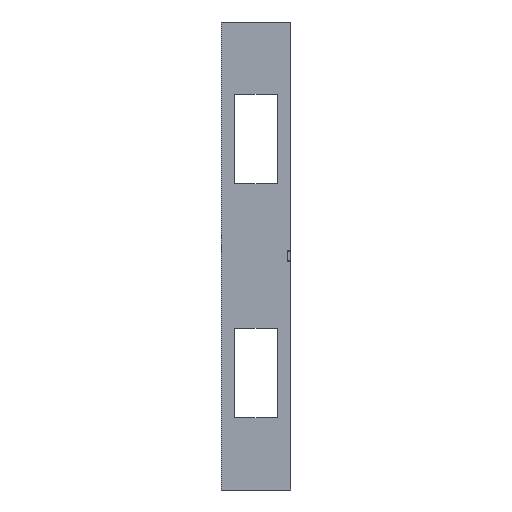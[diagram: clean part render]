
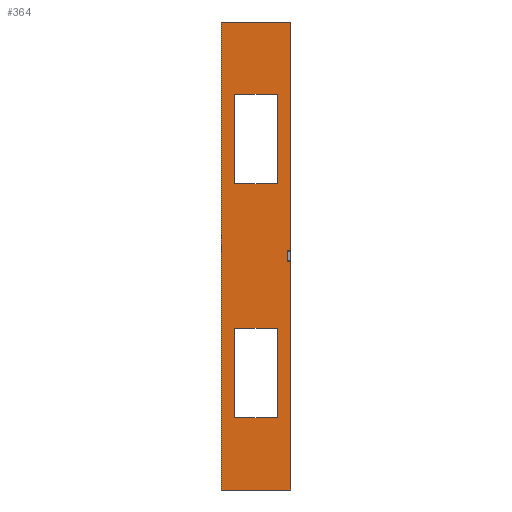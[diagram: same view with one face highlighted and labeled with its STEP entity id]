
A CAD part, front view. The second image highlights one B-rep face of the part: STEP entity #364.
In plain terms, the highlighted planar face has unit normal (0, -1, 0).
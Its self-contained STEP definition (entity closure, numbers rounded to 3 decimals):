
#1=DIRECTION('',(0.,0.,1.));
#2=VECTOR('',#1,475.);
#3=CARTESIAN_POINT('',(-112.,-1.,382.5));
#4=LINE('',#3,#2);
#5=DIRECTION('',(-1.,0.,0.));
#6=VECTOR('',#5,224.);
#7=CARTESIAN_POINT('',(112.,-1.,382.5));
#8=LINE('',#7,#6);
#9=DIRECTION('',(0.,0.,-1.));
#10=VECTOR('',#9,475.);
#11=CARTESIAN_POINT('',(112.,-1.,857.5));
#12=LINE('',#11,#10);
#13=DIRECTION('',(1.,0.,0.));
#14=VECTOR('',#13,224.);
#15=CARTESIAN_POINT('',(-112.,-1.,857.5));
#16=LINE('',#15,#14);
#17=DIRECTION('',(0.,0.,-1.));
#18=VECTOR('',#17,475.);
#19=CARTESIAN_POINT('',(-112.,-1.,-382.5));
#20=LINE('',#19,#18);
#21=DIRECTION('',(1.,0.,0.));
#22=VECTOR('',#21,224.);
#23=CARTESIAN_POINT('',(-112.,-1.,-857.5));
#24=LINE('',#23,#22);
#25=DIRECTION('',(0.,0.,1.));
#26=VECTOR('',#25,475.);
#27=CARTESIAN_POINT('',(112.,-1.,-857.5));
#28=LINE('',#27,#26);
#29=DIRECTION('',(-1.,0.,0.));
#30=VECTOR('',#29,224.);
#31=CARTESIAN_POINT('',(112.,-1.,-382.5));
#32=LINE('',#31,#30);
#33=DIRECTION('',(-1.,0.,0.));
#34=VECTOR('',#33,20.);
#35=CARTESIAN_POINT('',(185.,-1.,-27.5));
#36=LINE('',#35,#34);
#37=DIRECTION('',(0.,0.,-1.));
#38=VECTOR('',#37,1212.5);
#39=CARTESIAN_POINT('',(185.,-1.,-27.5));
#40=LINE('',#39,#38);
#41=DIRECTION('',(-1.,0.,0.));
#42=VECTOR('',#41,370.);
#43=CARTESIAN_POINT('',(185.,-1.,-1240.));
#44=LINE('',#43,#42);
#45=DIRECTION('',(0.,0.,1.));
#46=VECTOR('',#45,2480.);
#47=CARTESIAN_POINT('',(-185.,-1.,-1240.));
#48=LINE('',#47,#46);
#49=DIRECTION('',(1.,0.,0.));
#50=VECTOR('',#49,370.);
#51=CARTESIAN_POINT('',(-185.,-1.,1240.));
#52=LINE('',#51,#50);
#53=DIRECTION('',(0.,0.,-1.));
#54=VECTOR('',#53,1212.5);
#55=CARTESIAN_POINT('',(185.,-1.,1240.));
#56=LINE('',#55,#54);
#57=DIRECTION('',(-1.,0.,0.));
#58=VECTOR('',#57,20.);
#59=CARTESIAN_POINT('',(185.,-1.,27.5));
#60=LINE('',#59,#58);
#61=DIRECTION('',(0.,0.,1.));
#62=VECTOR('',#61,55.);
#63=CARTESIAN_POINT('',(165.,-1.,-27.5));
#64=LINE('',#63,#62);
#241=CARTESIAN_POINT('',(-185.,-1.,-1240.));
#242=CARTESIAN_POINT('',(-185.,-1.,1240.));
#243=VERTEX_POINT('',#241);
#244=VERTEX_POINT('',#242);
#245=CARTESIAN_POINT('',(185.,-1.,1240.));
#246=VERTEX_POINT('',#245);
#247=CARTESIAN_POINT('',(185.,-1.,-1240.));
#248=VERTEX_POINT('',#247);
#257=CARTESIAN_POINT('',(-112.,-1.,382.5));
#258=CARTESIAN_POINT('',(-112.,-1.,857.5));
#259=VERTEX_POINT('',#257);
#260=VERTEX_POINT('',#258);
#261=CARTESIAN_POINT('',(112.,-1.,857.5));
#262=VERTEX_POINT('',#261);
#263=CARTESIAN_POINT('',(112.,-1.,382.5));
#264=VERTEX_POINT('',#263);
#274=CARTESIAN_POINT('',(-112.,-1.,-382.5));
#276=VERTEX_POINT('',#274);
#278=CARTESIAN_POINT('',(-112.,-1.,-857.5));
#280=VERTEX_POINT('',#278);
#282=CARTESIAN_POINT('',(112.,-1.,-857.5));
#284=VERTEX_POINT('',#282);
#286=CARTESIAN_POINT('',(112.,-1.,-382.5));
#288=VERTEX_POINT('',#286);
#305=CARTESIAN_POINT('',(185.,-1.,-27.5));
#306=CARTESIAN_POINT('',(165.,-1.,-27.5));
#307=VERTEX_POINT('',#305);
#308=VERTEX_POINT('',#306);
#309=CARTESIAN_POINT('',(165.,-1.,27.5));
#310=VERTEX_POINT('',#309);
#311=CARTESIAN_POINT('',(185.,-1.,27.5));
#312=VERTEX_POINT('',#311);
#321=CARTESIAN_POINT('',(0.,-1.,0.));
#322=DIRECTION('',(0.,1.,0.));
#323=DIRECTION('',(1.,0.,0.));
#324=AXIS2_PLACEMENT_3D('',#321,#322,#323);
#325=PLANE('',#324);
#327=ORIENTED_EDGE('',*,*,#326,.F.);
#329=ORIENTED_EDGE('',*,*,#328,.T.);
#331=ORIENTED_EDGE('',*,*,#330,.T.);
#333=ORIENTED_EDGE('',*,*,#332,.T.);
#335=ORIENTED_EDGE('',*,*,#334,.T.);
#337=ORIENTED_EDGE('',*,*,#336,.T.);
#339=ORIENTED_EDGE('',*,*,#338,.T.);
#341=ORIENTED_EDGE('',*,*,#340,.F.);
#342=EDGE_LOOP('',(#327,#329,#331,#333,#335,#337,#339,#341));
#343=FACE_OUTER_BOUND('',#342,.F.);
#345=ORIENTED_EDGE('',*,*,#344,.F.);
#347=ORIENTED_EDGE('',*,*,#346,.F.);
#349=ORIENTED_EDGE('',*,*,#348,.F.);
#351=ORIENTED_EDGE('',*,*,#350,.F.);
#352=EDGE_LOOP('',(#345,#347,#349,#351));
#353=FACE_BOUND('',#352,.F.);
#355=ORIENTED_EDGE('',*,*,#354,.T.);
#357=ORIENTED_EDGE('',*,*,#356,.T.);
#359=ORIENTED_EDGE('',*,*,#358,.T.);
#361=ORIENTED_EDGE('',*,*,#360,.T.);
#362=EDGE_LOOP('',(#355,#357,#359,#361));
#363=FACE_BOUND('',#362,.F.);
#364=ADVANCED_FACE('',(#343,#353,#363),#325,.F.);
#326=EDGE_CURVE('',#307,#308,#36,.T.);
#328=EDGE_CURVE('',#307,#248,#40,.T.);
#330=EDGE_CURVE('',#248,#243,#44,.T.);
#332=EDGE_CURVE('',#243,#244,#48,.T.);
#334=EDGE_CURVE('',#244,#246,#52,.T.);
#336=EDGE_CURVE('',#246,#312,#56,.T.);
#338=EDGE_CURVE('',#312,#310,#60,.T.);
#340=EDGE_CURVE('',#308,#310,#64,.T.);
#344=EDGE_CURVE('',#259,#260,#4,.T.);
#346=EDGE_CURVE('',#264,#259,#8,.T.);
#348=EDGE_CURVE('',#262,#264,#12,.T.);
#350=EDGE_CURVE('',#260,#262,#16,.T.);
#354=EDGE_CURVE('',#276,#280,#20,.T.);
#356=EDGE_CURVE('',#280,#284,#24,.T.);
#358=EDGE_CURVE('',#284,#288,#28,.T.);
#360=EDGE_CURVE('',#288,#276,#32,.T.);
